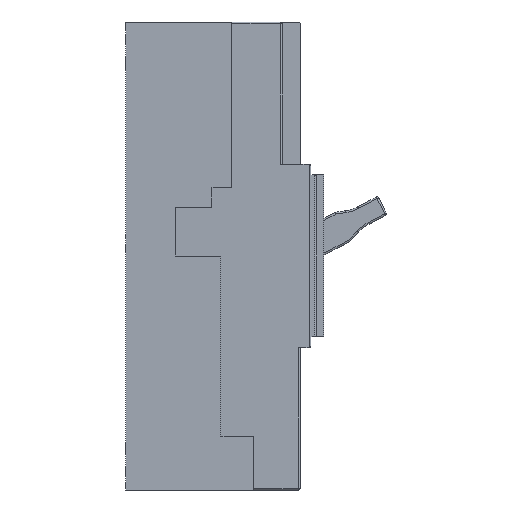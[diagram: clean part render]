
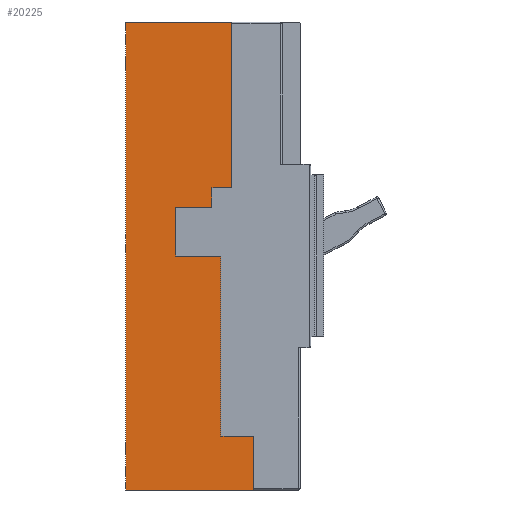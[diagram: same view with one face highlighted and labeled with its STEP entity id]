
A CAD part, left-side view. The second image highlights one B-rep face of the part: STEP entity #20225.
In plain terms, the highlighted planar face has unit normal (-1, 0, 0).
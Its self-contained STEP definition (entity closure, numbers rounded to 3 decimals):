
#6752=DIRECTION('',(0.,1.,0.));
#6753=VECTOR('',#6752,71.);
#6754=CARTESIAN_POINT('',(-70.2,-22.5,-130.));
#6755=LINE('',#6754,#6753);
#6756=DIRECTION('',(0.,0.,1.));
#6757=VECTOR('',#6756,260.);
#6758=CARTESIAN_POINT('',(-70.2,48.5,-130.));
#6759=LINE('',#6758,#6757);
#6760=DIRECTION('',(0.,-1.,0.));
#6761=VECTOR('',#6760,59.);
#6762=CARTESIAN_POINT('',(-70.2,48.5,130.));
#6763=LINE('',#6762,#6761);
#6764=DIRECTION('',(0.,0.,-1.));
#6765=VECTOR('',#6764,92.);
#6766=CARTESIAN_POINT('',(-70.2,-10.5,130.));
#6767=LINE('',#6766,#6765);
#6768=DIRECTION('',(0.,1.,0.));
#6769=VECTOR('',#6768,11.);
#6770=CARTESIAN_POINT('',(-70.2,-10.5,38.));
#6771=LINE('',#6770,#6769);
#6772=DIRECTION('',(0.,0.,-1.));
#6773=VECTOR('',#6772,11.);
#6774=CARTESIAN_POINT('',(-70.2,0.5,38.));
#6775=LINE('',#6774,#6773);
#6776=DIRECTION('',(0.,1.,0.));
#6777=VECTOR('',#6776,20.);
#6778=CARTESIAN_POINT('',(-70.2,0.5,27.));
#6779=LINE('',#6778,#6777);
#6780=DIRECTION('',(0.,0.,-1.));
#6781=VECTOR('',#6780,27.);
#6782=CARTESIAN_POINT('',(-70.2,20.5,27.));
#6783=LINE('',#6782,#6781);
#6784=DIRECTION('',(0.,-1.,0.));
#6785=VECTOR('',#6784,25.);
#6786=CARTESIAN_POINT('',(-70.2,20.5,0.));
#6787=LINE('',#6786,#6785);
#6788=DIRECTION('',(0.,0.,-1.));
#6789=VECTOR('',#6788,100.);
#6790=CARTESIAN_POINT('',(-70.2,-4.5,0.));
#6791=LINE('',#6790,#6789);
#6792=DIRECTION('',(0.,-1.,0.));
#6793=VECTOR('',#6792,18.);
#6794=CARTESIAN_POINT('',(-70.2,-4.5,-100.));
#6795=LINE('',#6794,#6793);
#6796=DIRECTION('',(0.,0.,-1.));
#6797=VECTOR('',#6796,30.);
#6798=CARTESIAN_POINT('',(-70.2,-22.5,-100.));
#6799=LINE('',#6798,#6797);
#10493=CARTESIAN_POINT('',(-70.2,-22.5,-130.));
#10494=CARTESIAN_POINT('',(-70.2,48.5,-130.));
#10495=VERTEX_POINT('',#10493);
#10496=VERTEX_POINT('',#10494);
#10497=CARTESIAN_POINT('',(-70.2,48.5,130.));
#10498=VERTEX_POINT('',#10497);
#10499=CARTESIAN_POINT('',(-70.2,-10.5,130.));
#10500=VERTEX_POINT('',#10499);
#10501=CARTESIAN_POINT('',(-70.2,-10.5,38.));
#10502=VERTEX_POINT('',#10501);
#10503=CARTESIAN_POINT('',(-70.2,0.5,38.));
#10504=VERTEX_POINT('',#10503);
#10505=CARTESIAN_POINT('',(-70.2,0.5,27.));
#10506=VERTEX_POINT('',#10505);
#10507=CARTESIAN_POINT('',(-70.2,20.5,27.));
#10508=VERTEX_POINT('',#10507);
#10509=CARTESIAN_POINT('',(-70.2,20.5,0.));
#10510=VERTEX_POINT('',#10509);
#10511=CARTESIAN_POINT('',(-70.2,-4.5,0.));
#10512=VERTEX_POINT('',#10511);
#10513=CARTESIAN_POINT('',(-70.2,-4.5,-100.));
#10514=VERTEX_POINT('',#10513);
#10515=CARTESIAN_POINT('',(-70.2,-22.5,-100.));
#10516=VERTEX_POINT('',#10515);
#20198=CARTESIAN_POINT('',(-70.2,0.,0.));
#20199=DIRECTION('',(1.,0.,0.));
#20200=DIRECTION('',(0.,0.,1.));
#20201=AXIS2_PLACEMENT_3D('',#20198,#20199,#20200);
#20202=PLANE('',#20201);
#20203=ORIENTED_EDGE('',*,*,#19055,.T.);
#20204=ORIENTED_EDGE('',*,*,#18284,.T.);
#20205=ORIENTED_EDGE('',*,*,#18009,.T.);
#20207=ORIENTED_EDGE('',*,*,#20206,.T.);
#20209=ORIENTED_EDGE('',*,*,#20208,.T.);
#20211=ORIENTED_EDGE('',*,*,#20210,.T.);
#20213=ORIENTED_EDGE('',*,*,#20212,.T.);
#20215=ORIENTED_EDGE('',*,*,#20214,.T.);
#20217=ORIENTED_EDGE('',*,*,#20216,.T.);
#20219=ORIENTED_EDGE('',*,*,#20218,.T.);
#20221=ORIENTED_EDGE('',*,*,#20220,.T.);
#20222=ORIENTED_EDGE('',*,*,#20191,.T.);
#20223=EDGE_LOOP('',(#20203,#20204,#20205,#20207,#20209,#20211,#20213,#20215,
#20217,#20219,#20221,#20222));
#20224=FACE_OUTER_BOUND('',#20223,.F.);
#18009=EDGE_CURVE('',#10498,#10500,#6763,.T.);
#18284=EDGE_CURVE('',#10496,#10498,#6759,.T.);
#19055=EDGE_CURVE('',#10495,#10496,#6755,.T.);
#20191=EDGE_CURVE('',#10516,#10495,#6799,.T.);
#20206=EDGE_CURVE('',#10500,#10502,#6767,.T.);
#20208=EDGE_CURVE('',#10502,#10504,#6771,.T.);
#20210=EDGE_CURVE('',#10504,#10506,#6775,.T.);
#20212=EDGE_CURVE('',#10506,#10508,#6779,.T.);
#20214=EDGE_CURVE('',#10508,#10510,#6783,.T.);
#20216=EDGE_CURVE('',#10510,#10512,#6787,.T.);
#20218=EDGE_CURVE('',#10512,#10514,#6791,.T.);
#20220=EDGE_CURVE('',#10514,#10516,#6795,.T.);
#20225=ADVANCED_FACE('',(#20224),#20202,.F.);
